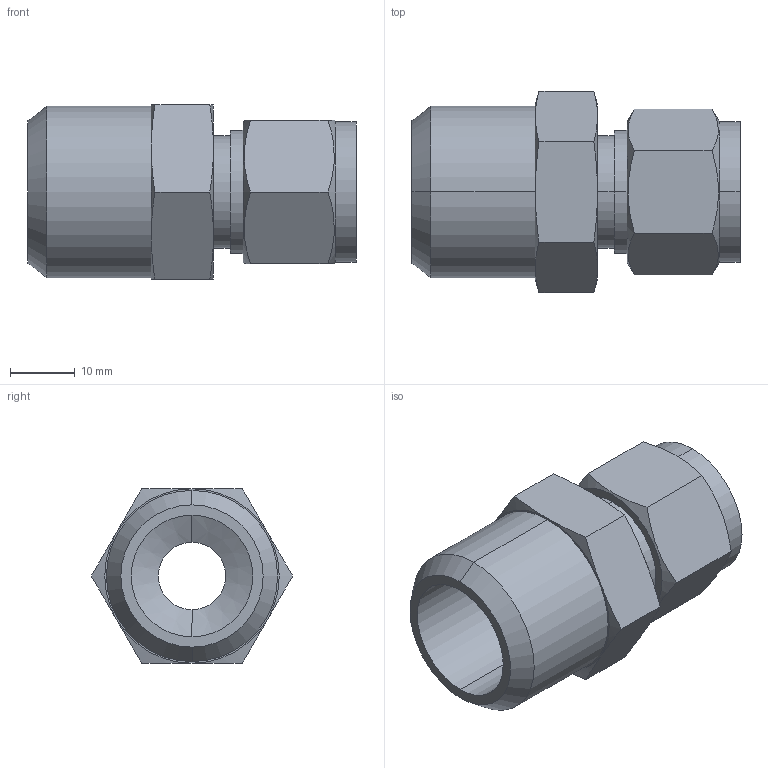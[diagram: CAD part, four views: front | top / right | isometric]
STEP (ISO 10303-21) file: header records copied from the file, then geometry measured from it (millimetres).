
FILE_DESCRIPTION (( 'STEP AP203' ), '1' );
FILE_NAME ('DCB08-12 SS.STEP', '2009-09-08T04:47:33', ( ' ' ), ( '' ), 'SwSTEP 2.0', 'SolidWorks 2008', '' );
FILE_SCHEMA (( 'CONFIG_CONTROL_DESIGN' ));
Length unit declared in the file: millimetre
Products named in the file (1): DCB08-12 SS
Bounding box: 50.8 x 31.17 x 26.99 mm (x, y, z)
Volume: 16050.5 mm3; surface area: 7550.6 mm2
Topology: 1 solids, 1 shells, 53 faces, 118 edges, 72 vertices
Faces by surface type: cone 20, plane 19, cylinder 14
Entity records: 1713 total; most frequent: CARTESIAN_POINT 500, ORIENTED_EDGE 236, DIRECTION 230, EDGE_CURVE 118, AXIS2_PLACEMENT_3D 98, VERTEX_POINT 72, EDGE_LOOP 60, ADVANCED_FACE 53
